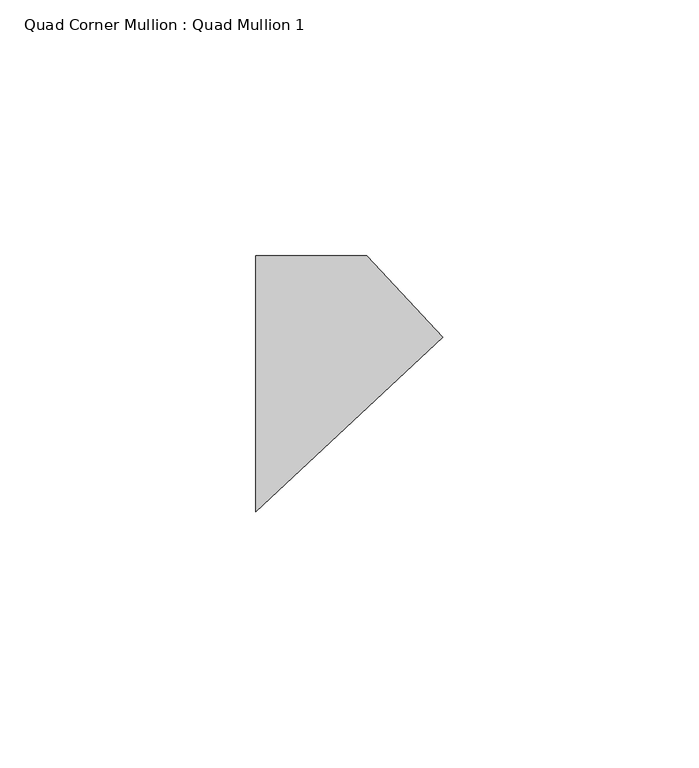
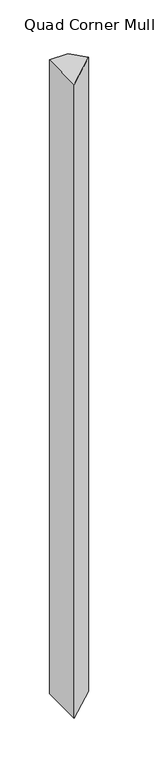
"""IFC4 building model written with IfcOpenShell, lengths in millimetres: member geometry, Quad Corner Mullion : Quad Mullion 1."""

from ifc_helpers import new_model, si_unit, frame, origin, place, context, project, spatial, polyline, outline, extrude, source, transform, mapped, element, save


def quad_corner_mullion_quad_mullion_1_004b285d(model_context):
    return source(origin(), model_context, "Body", "SweptSolid", [
        extrude(outline(polyline([(25.6973757, 9.099918), (-10.8703094, -25.0), (-10.8703094, 25.0), (10.8703094, 25.0), (25.6973757, 9.099918)])), frame((0.0, 0.0, -780.0), z_axis=(0.0, 0.0, 1.0), x_axis=(1.0, 0.0, 0.0)), (0.0, 0.0, 1.0), 780.0),
    ])


if __name__ == "__main__":
    model = new_model("IFC4")
    model_context = context("Model", 3, world=origin())
    ifc_project = project(units=[si_unit("LENGTHUNIT", "METRE", prefix="MILLI")], contexts=[model_context])
    site = spatial("IfcSite", under=ifc_project)
    building = spatial("IfcBuilding", under=site)
    placement = place(None, origin())
    quad_corner_mullion_quad_mullion_1_shape = quad_corner_mullion_quad_mullion_1_004b285d(model_context)
    element("IfcMember", 1, ObjectType="Quad Corner Mullion : Quad Mullion 1", at=placement, inside=building, context=model_context, shape_type="MappedRepresentation", body=[
        mapped(quad_corner_mullion_quad_mullion_1_shape, transform((0.0, 0.0, 0.0), x_axis=(1.0, 0.0, 0.0), y_axis=(0.0, 1.0, 0.0), z_axis=(0.0, 0.0, 1.0))),
    ])
    save(model, "model.ifc")
